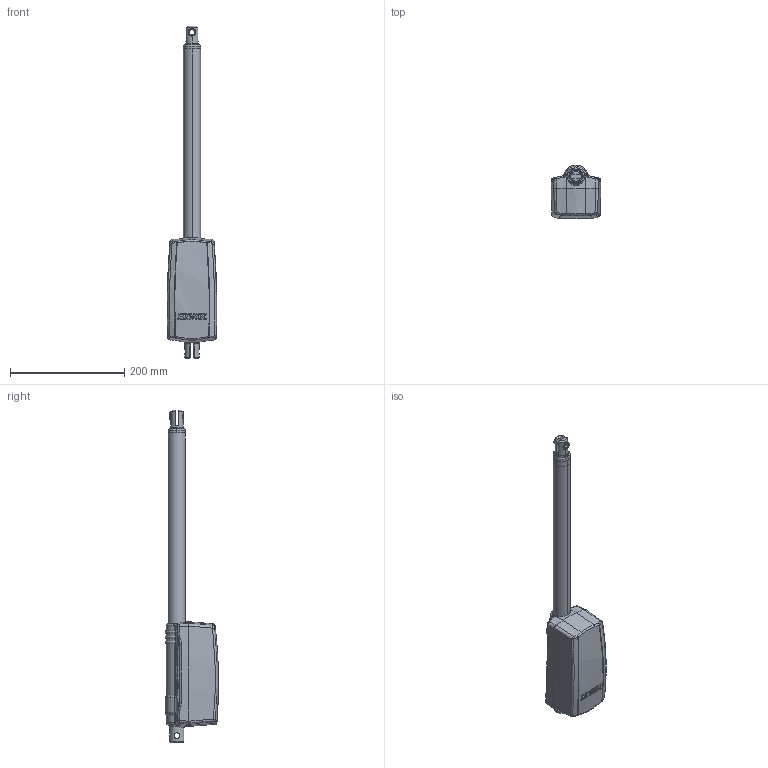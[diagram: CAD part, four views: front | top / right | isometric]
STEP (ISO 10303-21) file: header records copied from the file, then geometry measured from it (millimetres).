
FILE_DESCRIPTION((''),'2;1');
FILE_NAME('LAN4-S100_ASM','2007-07-12T',('amyliao'),(''),'PRO/ENGINEER BY PARAMETRIC TECHNOLOGY CORPORATION, 2003210','PRO/ENGINEER BY PARAMETRIC TECHNOLOGY CORPORATION, 2003210','');
FILE_SCHEMA(('CONFIG_CONTROL_DESIGN'));
Length unit declared in the file: millimetre
Products named in the file (9): COVER02; 04; 03; 01; 02; 05; N4-OUT-TUBE_ASM; COVER01; LAN4-S100_ASM
Assembly tree (9 placements, depth 3):
  LAN4-S100_ASM
    COVER02
    N4-OUT-TUBE_ASM
      04
      03
      01
      02
      05  x2
    COVER01
Bounding box: 86.98 x 94.2 x 582 mm (x, y, z)
Volume: 423389.6 mm3; surface area: 254399.6 mm2
Topology: 8 solids, 8 shells, 623 faces, 1609 edges, 1024 vertices
Faces by surface type: plane 213, cylinder 128, bspline 112, extrusion 92, cone 43, torus 19, sphere 16
Entity records: 25087 total; most frequent: CARTESIAN_POINT 11594, ORIENTED_EDGE 3174, DIRECTION 2073, EDGE_CURVE 1587, VERTEX_POINT 1010, B_SPLINE_CURVE_WITH_KNOTS 872, AXIS2_PLACEMENT_3D 742, EDGE_LOOP 661
